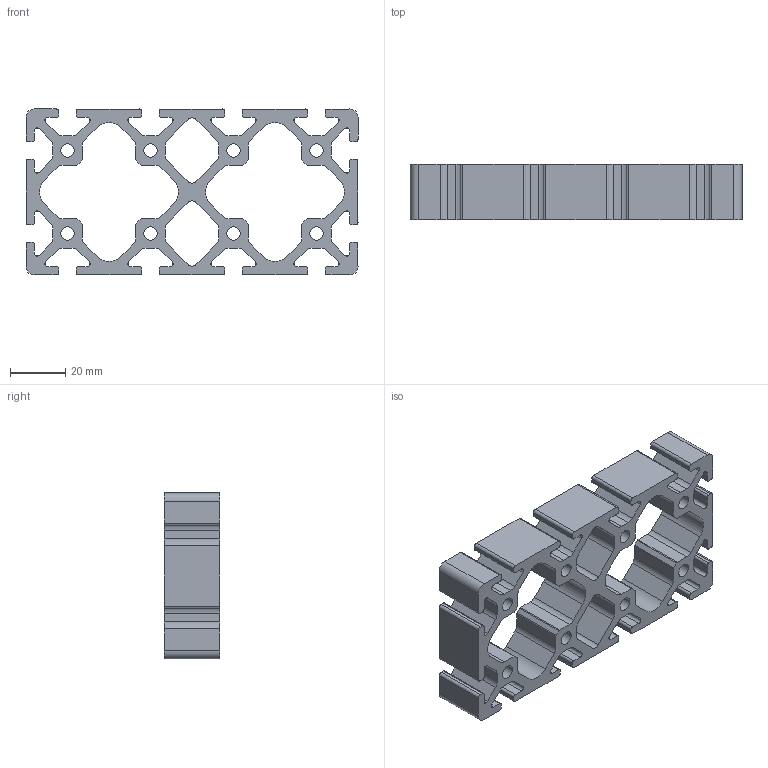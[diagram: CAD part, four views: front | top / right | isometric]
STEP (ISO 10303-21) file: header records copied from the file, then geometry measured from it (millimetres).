
FILE_DESCRIPTION(('STEP AP214'),'1');
FILE_NAME('cctmp_0A326FDC-CB50-4C23-AD25-6EE58071DB71_2023_04_25_10_31_50_0282_22264..stp','2023-04-25T08:31:50',('item Industrietechnik GmbH'),('CADClick - www.CADClick.com'),'Spatial InterOp 3D',' ','unknown authorization');
FILE_SCHEMA(('AUTOMOTIVE_DESIGN'));
Length unit declared in the file: millimetre
Products named in the file (2): item_0041905_Profile 6 120x60_L=20; item_0041905_Profile 6 120x60_L=20_1
Assembly tree (1 placements, depth 2):
  item_0041905_Profile 6 120x60_L=20
    item_0041905_Profile 6 120x60_L=20_1
Bounding box: 120 x 20 x 60 mm (x, y, z)
Volume: 50066.2 mm3; surface area: 30943.3 mm2
Topology: 1 solids, 1 shells, 322 faces, 960 edges, 640 vertices
Faces by surface type: cylinder 168, plane 154
Entity records: 13595 total; most frequent: DIRECTION 1944, CARTESIAN_POINT 1924, ORIENTED_EDGE 1920, EDGE_CURVE 960, AXIS2_PLACEMENT_3D 660, VERTEX_POINT 640, LINE 624, VECTOR 624
